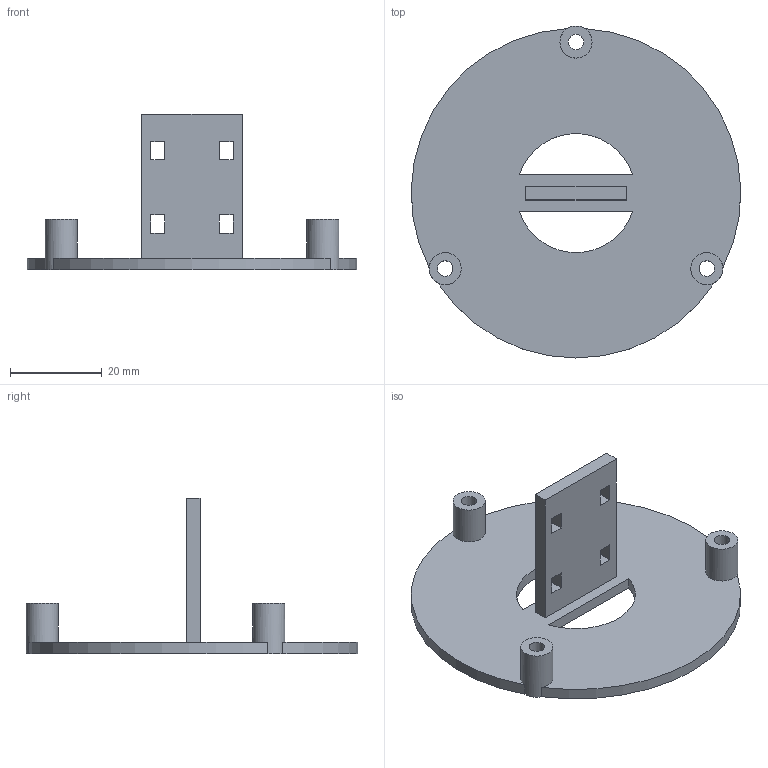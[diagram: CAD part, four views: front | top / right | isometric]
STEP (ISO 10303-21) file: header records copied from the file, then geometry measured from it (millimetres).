
FILE_DESCRIPTION(('Open CASCADE Model'),'2;1');
FILE_NAME('Open CASCADE Shape Model','2026-10-18T06:41:05',('Author'),( 'Open CASCADE'),'Open CASCADE STEP processor 7.9','Open CASCADE 7.9' ,'Unknown');
FILE_SCHEMA(('AUTOMOTIVE_DESIGN { 1 0 10303 214 1 1 1 1 }'));
Length unit declared in the file: millimetre
Products named in the file (1): Open CASCADE STEP translator 7.9 8
Bounding box: 71.98 x 72.5 x 34 mm (x, y, z)
Volume: 11989.4 mm3; surface area: 10858.2 mm2
Topology: 1 solids, 1 shells, 39 faces, 108 edges, 72 vertices
Faces by surface type: plane 28, cylinder 11
Full cylindrical faces by diameter (mm): 3.4 x3, 7 x3
Entity records: 2655 total; most frequent: CARTESIAN_POINT 598, DIRECTION 335, ORIENTED_EDGE 216, PCURVE 216, DEFINITIONAL_REPRESENTATION 216, LINE 184, VECTOR 184, EDGE_CURVE 108
